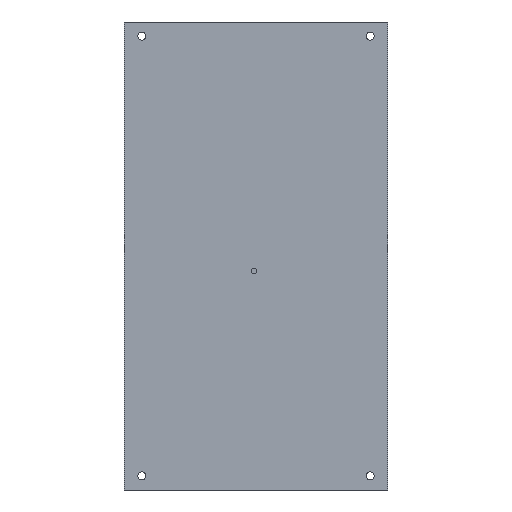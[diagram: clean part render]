
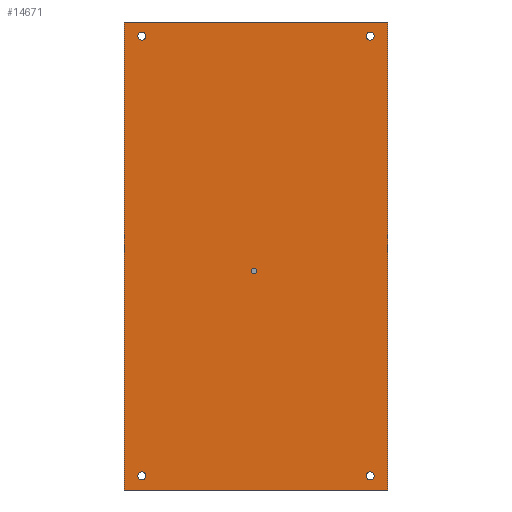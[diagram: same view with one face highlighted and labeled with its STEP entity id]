
A CAD part, front view. The second image highlights one B-rep face of the part: STEP entity #14671.
In plain terms, the highlighted planar face has unit normal (0, -1, 0).
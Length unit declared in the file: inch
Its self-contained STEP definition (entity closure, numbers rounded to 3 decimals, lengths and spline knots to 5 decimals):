
#503=FACE_BOUND('',#2522,.T.);
#504=FACE_BOUND('',#2523,.T.);
#505=FACE_BOUND('',#2524,.T.);
#506=FACE_BOUND('',#2525,.T.);
#507=FACE_BOUND('',#2526,.T.);
#1500=FACE_OUTER_BOUND('',#2521,.T.);
#2521=EDGE_LOOP('',(#12440,#12441,#12442,#12443));
#2522=EDGE_LOOP('',(#12444));
#2523=EDGE_LOOP('',(#12445));
#2524=EDGE_LOOP('',(#12446));
#2525=EDGE_LOOP('',(#12447));
#2526=EDGE_LOOP('',(#12448));
#3034=CIRCLE('',#16137,0.05906);
#3035=CIRCLE('',#16142,0.08465);
#3036=CIRCLE('',#16144,0.08465);
#3037=CIRCLE('',#16146,0.08465);
#3038=CIRCLE('',#16148,0.08465);
#4266=LINE('',#24670,#5528);
#4280=LINE('',#24722,#5542);
#4299=LINE('',#24783,#5561);
#4300=LINE('',#24785,#5562);
#5528=VECTOR('',#20204,0.3937);
#5542=VECTOR('',#20250,0.3937);
#5561=VECTOR('',#20341,0.3937);
#5562=VECTOR('',#20344,0.3937);
#6725=VERTEX_POINT('',#24667);
#6726=VERTEX_POINT('',#24669);
#6748=VERTEX_POINT('',#24720);
#6749=VERTEX_POINT('',#24762);
#6750=VERTEX_POINT('',#24768);
#6751=VERTEX_POINT('',#24771);
#6752=VERTEX_POINT('',#24774);
#6753=VERTEX_POINT('',#24777);
#6754=VERTEX_POINT('',#24781);
#8599=EDGE_CURVE('',#6726,#6725,#4266,.T.);
#8627=EDGE_CURVE('',#6725,#6748,#4280,.T.);
#8645=EDGE_CURVE('',#6749,#6749,#3034,.T.);
#8646=EDGE_CURVE('',#6750,#6750,#3035,.T.);
#8647=EDGE_CURVE('',#6751,#6751,#3036,.T.);
#8648=EDGE_CURVE('',#6752,#6752,#3037,.T.);
#8649=EDGE_CURVE('',#6753,#6753,#3038,.T.);
#8651=EDGE_CURVE('',#6748,#6754,#4299,.T.);
#8652=EDGE_CURVE('',#6754,#6726,#4300,.T.);
#12440=ORIENTED_EDGE('',*,*,#8652,.T.);
#12441=ORIENTED_EDGE('',*,*,#8599,.T.);
#12442=ORIENTED_EDGE('',*,*,#8627,.T.);
#12443=ORIENTED_EDGE('',*,*,#8651,.T.);
#12444=ORIENTED_EDGE('',*,*,#8645,.T.);
#12445=ORIENTED_EDGE('',*,*,#8646,.T.);
#12446=ORIENTED_EDGE('',*,*,#8647,.T.);
#12447=ORIENTED_EDGE('',*,*,#8648,.T.);
#12448=ORIENTED_EDGE('',*,*,#8649,.T.);
#12988=PLANE('',#16152);
#14671=ADVANCED_FACE('',(#1500,#503,#504,#505,#506,#507),#12988,.T.);
#16137=AXIS2_PLACEMENT_3D('',#24763,#20312,#20313);
#16142=AXIS2_PLACEMENT_3D('',#24769,#20322,#20323);
#16144=AXIS2_PLACEMENT_3D('',#24772,#20326,#20327);
#16146=AXIS2_PLACEMENT_3D('',#24775,#20330,#20331);
#16148=AXIS2_PLACEMENT_3D('',#24778,#20334,#20335);
#16152=AXIS2_PLACEMENT_3D('',#24786,#20345,#20346);
#20204=DIRECTION('',(0.,0.,-1.));
#20250=DIRECTION('',(1.,0.,0.));
#20312=DIRECTION('center_axis',(0.,1.,0.));
#20313=DIRECTION('ref_axis',(1.,0.,0.));
#20322=DIRECTION('center_axis',(0.,1.,0.));
#20323=DIRECTION('ref_axis',(1.,0.,0.));
#20326=DIRECTION('center_axis',(0.,1.,0.));
#20327=DIRECTION('ref_axis',(1.,0.,0.));
#20330=DIRECTION('center_axis',(0.,1.,0.));
#20331=DIRECTION('ref_axis',(1.,0.,0.));
#20334=DIRECTION('center_axis',(0.,1.,0.));
#20335=DIRECTION('ref_axis',(1.,0.,0.));
#20341=DIRECTION('',(0.,0.,1.));
#20344=DIRECTION('',(-1.,0.,0.));
#20345=DIRECTION('center_axis',(0.,-1.,0.));
#20346=DIRECTION('ref_axis',(0.,0.,-1.));
#24667=CARTESIAN_POINT('',(-2.88615,-0.51435,-4.94094));
#24669=CARTESIAN_POINT('',(-2.88615,-0.51435,4.90157));
#24670=CARTESIAN_POINT('',(-2.88615,-0.51435,4.90157));
#24720=CARTESIAN_POINT('',(2.66503,-0.51435,-4.94094));
#24722=CARTESIAN_POINT('',(-2.88615,-0.51435,-4.94094));
#24762=CARTESIAN_POINT('',(-0.09087,-0.51435,-0.33465));
#24763=CARTESIAN_POINT('Origin',(-0.14993,-0.51435,
-0.33465));
#24768=CARTESIAN_POINT('',(2.20637,-0.51435,-4.64567));
#24769=CARTESIAN_POINT('Origin',(2.29102,-0.51435,-4.64567));
#24771=CARTESIAN_POINT('',(-2.59678,-0.51435,4.6063));
#24772=CARTESIAN_POINT('Origin',(-2.51213,-0.51435,4.6063));
#24774=CARTESIAN_POINT('',(-2.59678,-0.51435,-4.64567));
#24775=CARTESIAN_POINT('Origin',(-2.51213,-0.51435,-4.64567));
#24777=CARTESIAN_POINT('',(2.20637,-0.51435,4.6063));
#24778=CARTESIAN_POINT('Origin',(2.29102,-0.51435,4.6063));
#24781=CARTESIAN_POINT('',(2.66503,-0.51435,4.90157));
#24783=CARTESIAN_POINT('',(2.66503,-0.51435,-4.94094));
#24785=CARTESIAN_POINT('',(2.66503,-0.51435,4.90157));
#24786=CARTESIAN_POINT('Origin',(-0.11056,-0.51435,
-0.01969));
